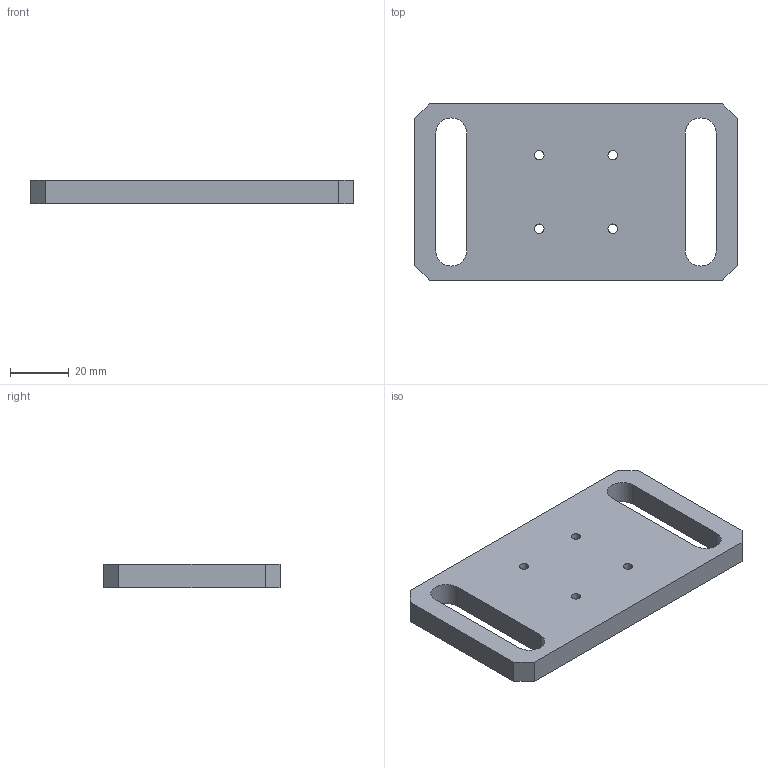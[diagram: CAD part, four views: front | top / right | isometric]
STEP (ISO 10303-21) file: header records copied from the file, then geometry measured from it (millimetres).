
FILE_DESCRIPTION(('CATIA V5 STEP Exchange'),'2;1');
FILE_NAME('D:\姚明阳\1、工装图纸\AGZ101 分体VDC阀压阀杆治具\AGZ101 分体VDC阀压阀杆治具（pdf+stp）\AGZ101.01_V1.stp','2023-08-29T05:13:06+00:00',('none'),('none'),'CATIA Version 5 Release 21 GA (IN-10)','CATIA V5 STEP AP214','none');
FILE_SCHEMA(('AUTOMOTIVE_DESIGN { 1 0 10303 214 1 1 1 1 }'));
Length unit declared in the file: millimetre
Products named in the file (1): AGZ101.01_V1
Bounding box: 110 x 60 x 8 mm (x, y, z)
Volume: 44037.2 mm3; surface area: 15765.1 mm2
Topology: 1 solids, 1 shells, 26 faces, 72 edges, 48 vertices
Faces by surface type: plane 14, cylinder 12
Entity records: 842 total; most frequent: ORIENTED_EDGE 144, CARTESIAN_POINT 143, DIRECTION 116, EDGE_CURVE 72, VECTOR 48, LINE 48, VERTEX_POINT 48, AXIS2_PLACEMENT_3D 47
